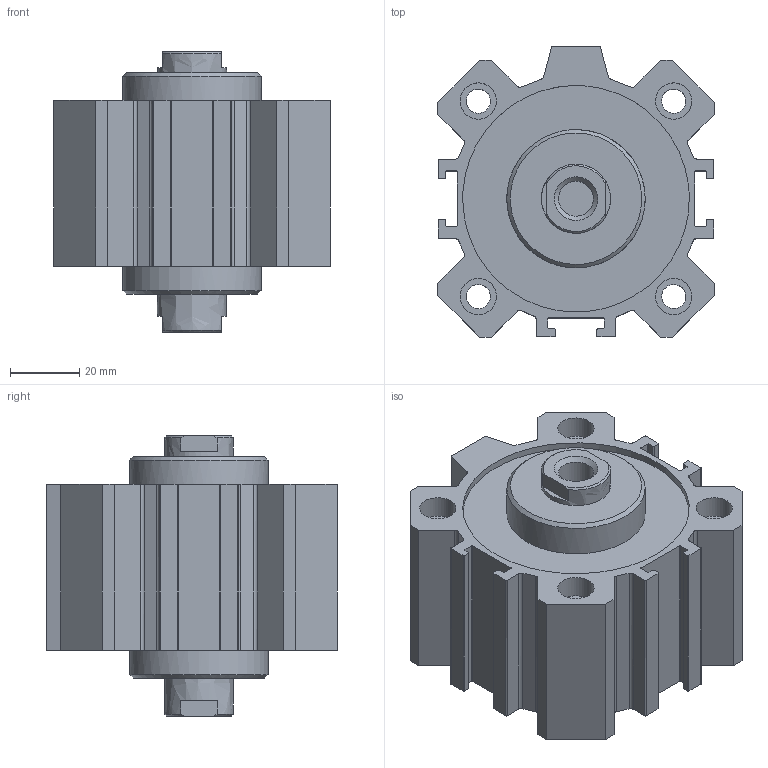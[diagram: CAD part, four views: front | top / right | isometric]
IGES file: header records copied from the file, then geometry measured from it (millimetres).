
Global section: file name: 1514_63_0005; native system: Autodesk Inventor 2014; preprocessor: unknown; author: A. Manieri; date: 20160824.140213; units: millimetre
Bounding box: 80 x 84 x 81 mm (x, y, z)
Volume: 246145.8 mm3; surface area: 64722.8 mm2
Topology: 2 solids, 2 shells, 178 faces, 482 edges, 328 vertices
Faces by surface type: bspline 178
